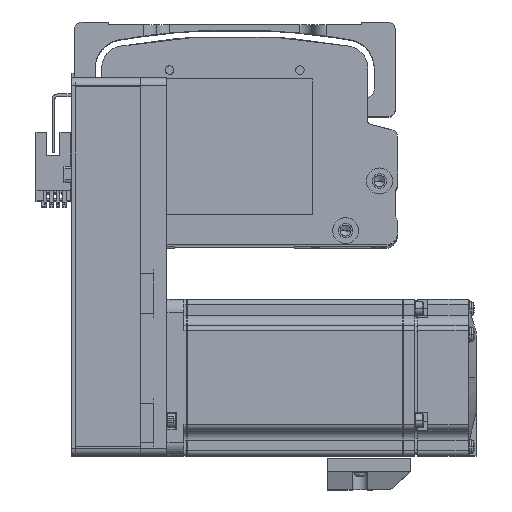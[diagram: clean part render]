
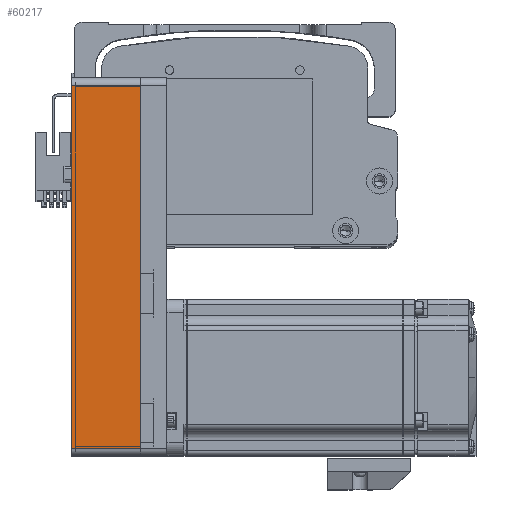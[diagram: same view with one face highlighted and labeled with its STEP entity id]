
A CAD part, top view. The second image highlights one B-rep face of the part: STEP entity #60217.
In plain terms, the highlighted planar face has unit normal (0, 0, 1) as drawn and (0, 1, 0) by its records, which use the part's own axes.
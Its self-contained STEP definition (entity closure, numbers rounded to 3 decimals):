
#4167 = EDGE_CURVE ( 'NONE', #77668, #49387, #26124, .T. ) ;
#5906 = EDGE_CURVE ( 'NONE', #67500, #49387, #49169, .T. ) ;
#5926 = CARTESIAN_POINT ( 'NONE',  ( 72.5, 30., 0. ) ) ;
#6879 = EDGE_LOOP ( 'NONE', ( #7906, #50237, #68827, #44994 ) ) ;
#7906 = ORIENTED_EDGE ( 'NONE', *, *, #47924, .T. ) ;
#8909 = AXIS2_PLACEMENT_3D ( 'NONE', #13293, #57317, #19620 ) ;
#9170 = VECTOR ( 'NONE', #12318, 1000. ) ;
#12318 = DIRECTION ( 'NONE',  ( -1., 0., 0. ) ) ;
#13293 = CARTESIAN_POINT ( 'NONE',  ( 72.5, 30., 26.5 ) ) ;
#19620 = DIRECTION ( 'NONE',  ( 1., 0., 0. ) ) ;
#20425 = DIRECTION ( 'NONE',  ( 0., 0., 1. ) ) ;
#26124 = LINE ( 'NONE', #44790, #57633 ) ;
#30563 = CARTESIAN_POINT ( 'NONE',  ( 69.5, 30., 26.5 ) ) ;
#31430 = VERTEX_POINT ( 'NONE', #32201 ) ;
#31757 = CARTESIAN_POINT ( 'NONE',  ( -69.5, 30., 0. ) ) ;
#32201 = CARTESIAN_POINT ( 'NONE',  ( 69.5, 30., 0. ) ) ;
#35564 = EDGE_CURVE ( 'NONE', #77668, #31430, #64526, .T. ) ;
#43258 = CARTESIAN_POINT ( 'NONE',  ( 69.5, 30., 26.5 ) ) ;
#44381 = PLANE ( 'NONE',  #8909 ) ;
#44790 = CARTESIAN_POINT ( 'NONE',  ( 72.5, 30., 26.5 ) ) ;
#44994 = ORIENTED_EDGE ( 'NONE', *, *, #35564, .T. ) ;
#47924 = EDGE_CURVE ( 'NONE', #31430, #67500, #59411, .T. ) ;
#49169 = LINE ( 'NONE', #64432, #63910 ) ;
#49387 = VERTEX_POINT ( 'NONE', #73234 ) ;
#49561 = DIRECTION ( 'NONE',  ( 0., 0., -1. ) ) ;
#50237 = ORIENTED_EDGE ( 'NONE', *, *, #5906, .T. ) ;
#51112 = DIRECTION ( 'NONE',  ( -1., 0., 0. ) ) ;
#57317 = DIRECTION ( 'NONE',  ( 0., -1., 0. ) ) ;
#57633 = VECTOR ( 'NONE', #51112, 1000. ) ;
#59411 = LINE ( 'NONE', #5926, #9170 ) ;
#60217 = ADVANCED_FACE ( 'NONE', ( #80325 ), #44381, .F. ) ;
#63910 = VECTOR ( 'NONE', #20425, 1000. ) ;
#64432 = CARTESIAN_POINT ( 'NONE',  ( -69.5, 30., 26.5 ) ) ;
#64526 = LINE ( 'NONE', #43258, #66509 ) ;
#66509 = VECTOR ( 'NONE', #49561, 1000. ) ;
#67500 = VERTEX_POINT ( 'NONE', #31757 ) ;
#68827 = ORIENTED_EDGE ( 'NONE', *, *, #4167, .F. ) ;
#73234 = CARTESIAN_POINT ( 'NONE',  ( -69.5, 30., 26.5 ) ) ;
#77668 = VERTEX_POINT ( 'NONE', #30563 ) ;
#80325 = FACE_OUTER_BOUND ( 'NONE', #6879, .T. ) ;
